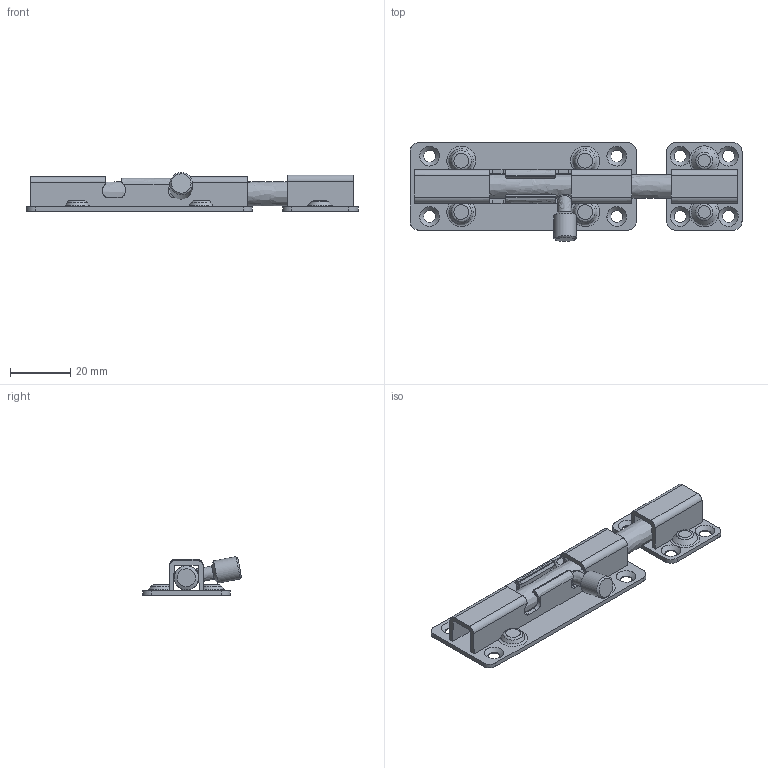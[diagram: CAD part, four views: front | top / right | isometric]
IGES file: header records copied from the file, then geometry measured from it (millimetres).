
Global section: file name: DR_ODT4-4; native system: Autodesk Inventor 2015; preprocessor: unknown; author: user; date: 20170904.093230; units: millimetre
Bounding box: 110 x 32.73 x 12.82 mm (x, y, z)
Volume: 11796.1 mm3; surface area: 14001.6 mm2
Topology: 5 solids, 5 shells, 249 faces, 702 edges, 458 vertices
Faces by surface type: bspline 249
